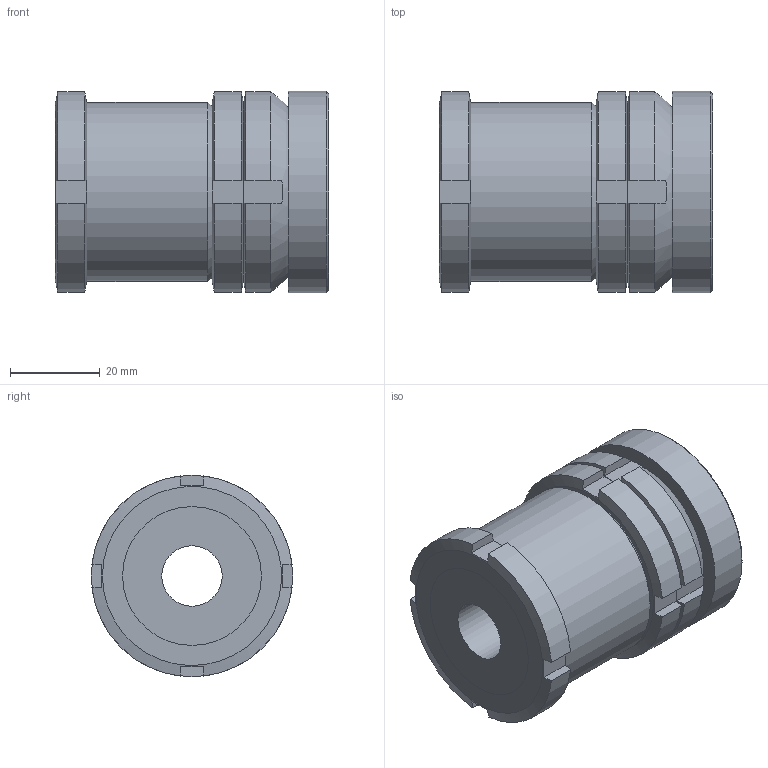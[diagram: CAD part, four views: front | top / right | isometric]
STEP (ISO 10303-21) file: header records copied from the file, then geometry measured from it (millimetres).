
FILE_DESCRIPTION( ( 'STEP AP203' ), '1' );
FILE_NAME( 'C:/Temp/Ganter_Step_05_03_2020/data/3_2/gn350_5/gn350_5_st/Levelling set GN 350.5-45-13,5-61-ST (0-0).stp', '2020-03-13T05:28:30', ( 'License CC BY-ND 4.0' ), ( 'CADENAS' ), ' ', 'PARTsolutions', ' ' );
FILE_SCHEMA( ( 'CONFIG_CONTROL_DESIGN' ) );
Length unit declared in the file: millimetre
Products named in the file (5): Levelling set GN 350.5-45-13,5-61-ST (0-0); _Levelling set GN 350.5-45-13,5-61-ST-G; _Levelling set GN 350.5-45-13,5-61-ST-K; _Levelling set GN 350.5-45-13,5-61-ST-P(0); _Levelling set GN 350.5-45-13,5-41-ST-KM
Assembly tree (4 placements, depth 2):
  Levelling set GN 350.5-45-13,5-61-ST (0-0)
    _Levelling set GN 350.5-45-13,5-61-ST-G
    _Levelling set GN 350.5-45-13,5-61-ST-K
    _Levelling set GN 350.5-45-13,5-61-ST-P(0)
    _Levelling set GN 350.5-45-13,5-41-ST-KM
Bounding box: 61 x 45 x 45 mm (x, y, z)
Volume: 77065.8 mm3; surface area: 28077.4 mm2
Topology: 4 solids, 4 shells, 85 faces, 211 edges, 140 vertices
Faces by surface type: plane 50, cylinder 24, cone 9, sphere 2
Full cylindrical faces by diameter (mm): 13.5 x1, 22 x1, 24.492 x1, 25.5 x1, 28.376 x1, 28.917 x1, 30 x2, 31 x2, 40 x1, 45 x1
Entity records: 2696 total; most frequent: CARTESIAN_POINT 698, DIRECTION 368, ORIENTED_EDGE 356, EDGE_CURVE 178, AXIS2_PLACEMENT_3D 160, VERTEX_POINT 130, EDGE_LOOP 122, FACE_OUTER_BOUND 99
